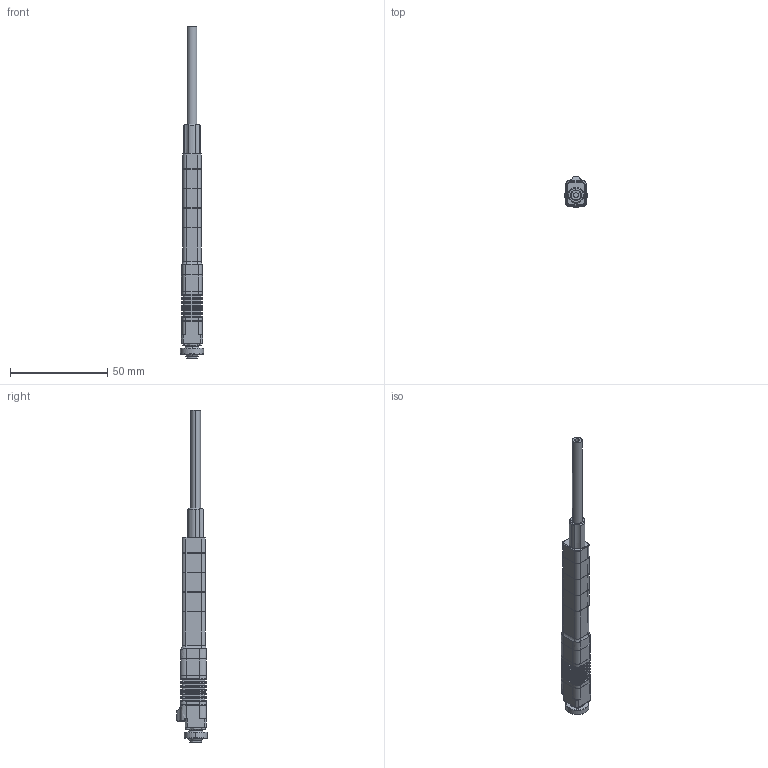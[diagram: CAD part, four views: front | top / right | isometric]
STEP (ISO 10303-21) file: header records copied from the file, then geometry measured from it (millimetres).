
FILE_DESCRIPTION (( 'STEP AP203' ), '1' );
FILE_NAME ('LAF50-0x4D-GE4C.STEP', '2021-12-02T03:10:35', ( '' ), ( '' ), 'SwSTEP 2.0', 'SolidWorks 2021', '' );
FILE_SCHEMA (( 'CONFIG_CONTROL_DESIGN' ));
Length unit declared in the file: millimetre
Products named in the file (7): LAF50-0x4D-GE4C; LAF50-0x4D-GE4C.STEP; NSK-GE4C.STEP; ___________________.STEP; _________.STEP; LAF50-0x4D-GE4C^LAF50-0x4D-GE4C.STEP; 50____.STEP
Assembly tree (6 placements, depth 3):
  LAF50-0x4D-GE4C
    LAF50-0x4D-GE4C.STEP
      NSK-GE4C.STEP
      _________.STEP
      ___________________.STEP
      50____.STEP
      LAF50-0x4D-GE4C^LAF50-0x4D-GE4C.STEP
Bounding box: 12 x 15.8 x 170.7 mm (x, y, z)
Volume: 12814.2 mm3; surface area: 8047.8 mm2
Topology: 5 solids, 5 shells, 534 faces, 1228 edges, 737 vertices
Faces by surface type: plane 197, bspline 132, cylinder 128, cone 61, torus 8, sphere 8
Entity records: 22948 total; most frequent: CARTESIAN_POINT 10907, ORIENTED_EDGE 2456, DIRECTION 2127, EDGE_CURVE 1228, AXIS2_PLACEMENT_3D 753, VERTEX_POINT 737, VECTOR 621, LINE 621
